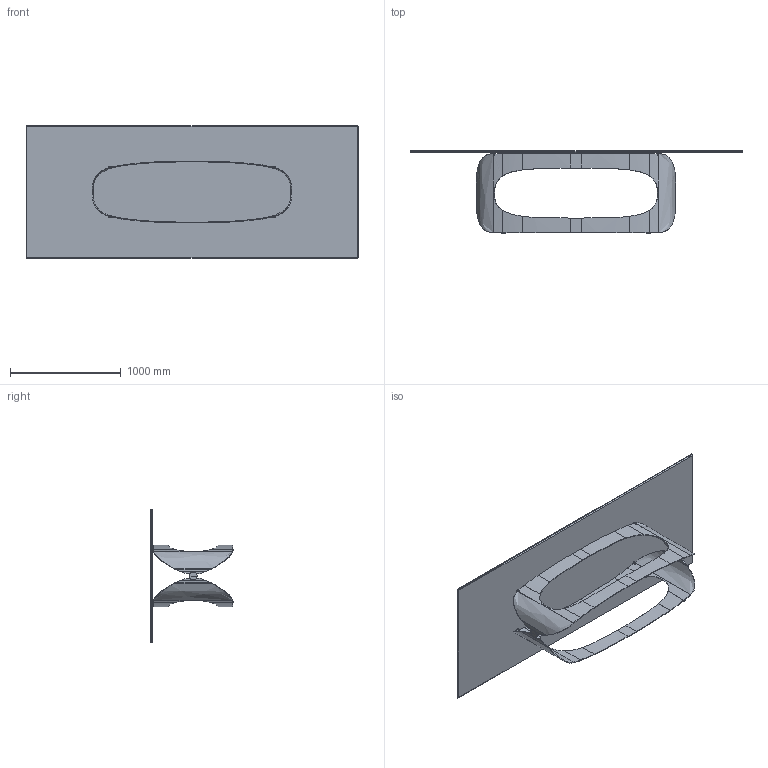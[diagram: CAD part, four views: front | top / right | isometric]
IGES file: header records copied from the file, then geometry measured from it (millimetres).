
Start section: SolidWorks IGES file using analytic representation for surfaces
Global section: file name: Y:\eforma\TECNICO\SOLIDWORKS\E-FORMA\1-TAVOLI\POLIFEMO\02 parts\PO24C_Polifemo_300x120_.IGS; native system: SolidWorks 2022; preprocessor: SolidWorks 2022; author: eforma.tech; date: 240806.162044; units: millimetre
Bounding box: 3000 x 740.97 x 1200 mm (x, y, z)
Volume: 66529789.5 mm3; surface area: 17699369.9 mm2
Topology: 25 solids, 25 shells, 590 faces, 1476 edges, 942 vertices
Faces by surface type: revolution 273, plane 165, bspline 152
